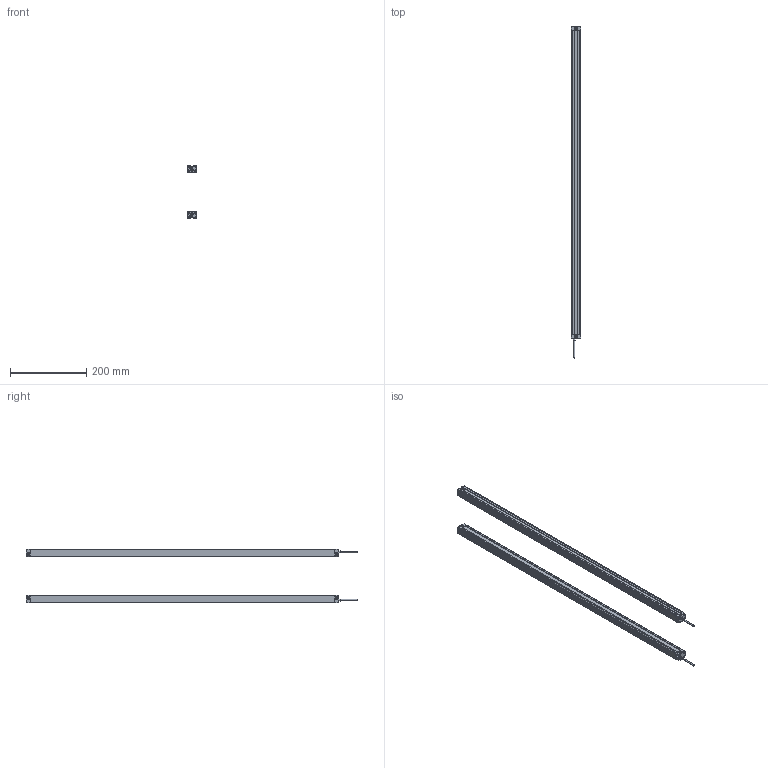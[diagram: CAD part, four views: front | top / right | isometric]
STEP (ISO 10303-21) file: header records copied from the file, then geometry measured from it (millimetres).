
FILE_DESCRIPTION (( 'STEP AP214' ), '1' );
FILE_NAME ('MTC4020.STEP', '2022-08-02T09:03:27', ( '' ), ( '' ), 'SwSTEP 2.0', 'SolidWorks 2018', '' );
FILE_SCHEMA (( 'AUTOMOTIVE_DESIGN' ));
Length unit declared in the file: millimetre
Products named in the file (5): MTC waike^MTC; P01^MTC; 噩砃P02^MTC; P02^MTC; MTC4020
Assembly tree (6 placements, depth 2):
  MTC4020
    MTC waike^MTC  x2
    P01^MTC  x2
    P02^MTC
    噩砃P02^MTC
Bounding box: 25 x 872 x 141.4 mm (x, y, z)
Volume: 272842.5 mm3; surface area: 375901 mm2
Topology: 8 solids, 8 shells, 480 faces, 1396 edges, 924 vertices
Faces by surface type: plane 272, cylinder 208
Entity records: 10886 total; most frequent: DIRECTION 1881, CARTESIAN_POINT 1878, ORIENTED_EDGE 1846, EDGE_CURVE 923, AXIS2_PLACEMENT_3D 637, VERTEX_POINT 610, VECTOR 607, LINE 607
